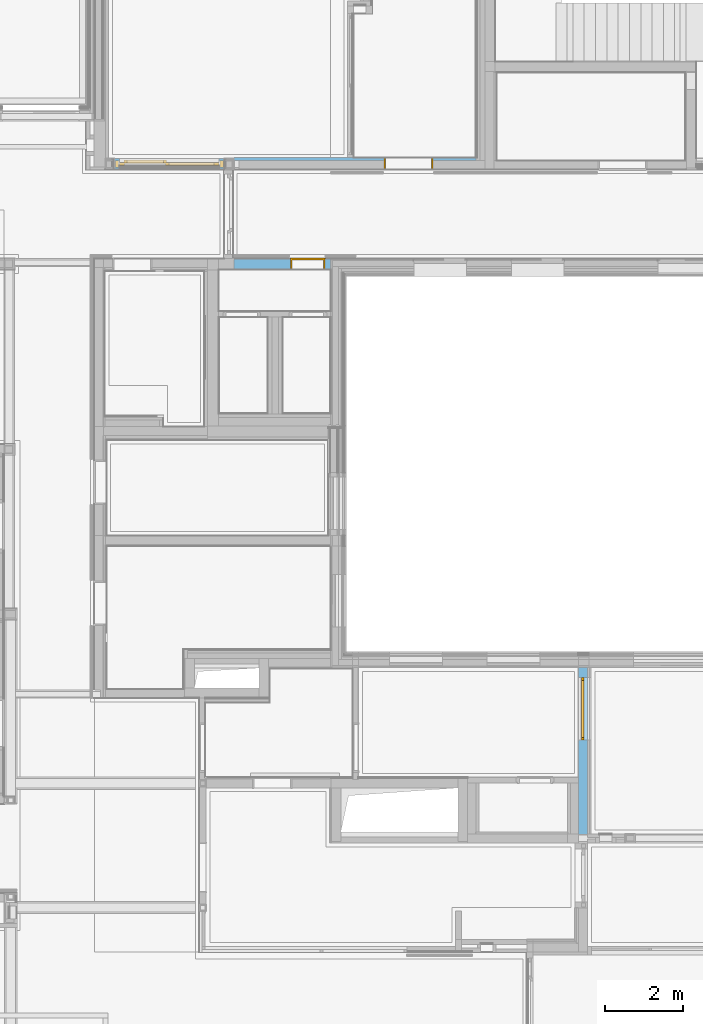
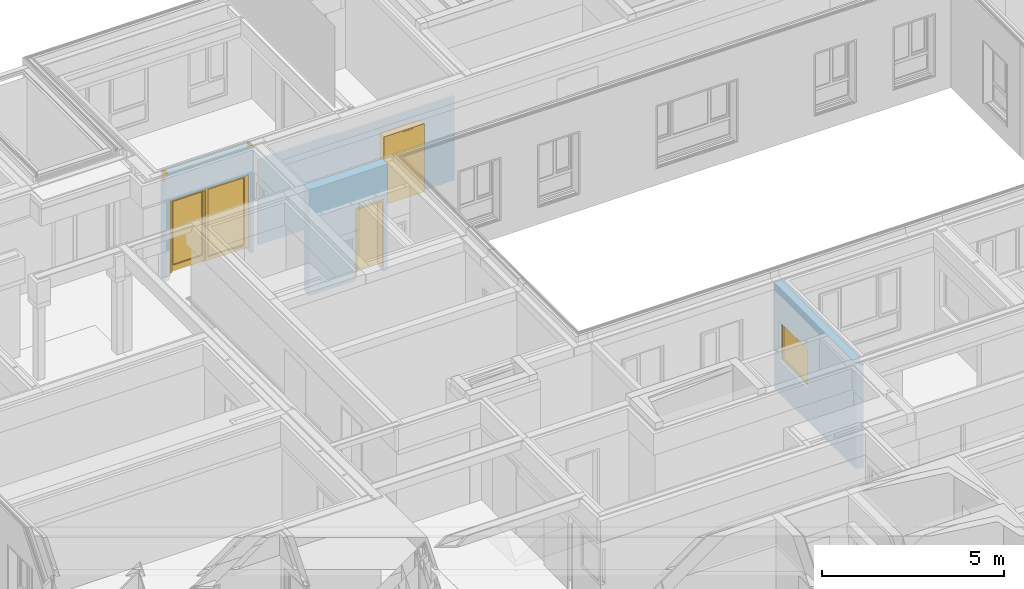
# One storey, part 93 of 222: 3 doors, 1 window, 4 openings, plus 4 elements that do not belong to this part.
"""IFC4 building model written with IfcOpenShell, lengths in metres."""

from ifc_helpers import new_model, entity, si_unit, converted_unit, derived_unit, frame, frame_2d, origin, origin_with_axes, place, context, subcontext, project, spatial, polyline, rectangle, outline, extrude, clip, bounded_halfspace, closed_shell, open_shell, faceted_brep, surface_model, source, transform, mapped, material, type_object, element, fill, save


model = new_model("IFC4")

# Units and contexts
model_context = context("Model", 3, precision=1e-05, world=origin())
body_context = subcontext(model_context, "Body", "Model", "MODEL_VIEW")
ifc_project = project(units=[si_unit("LENGTHUNIT", "METRE"), si_unit("AREAUNIT", "SQUARE_METRE"), si_unit("VOLUMEUNIT", "CUBIC_METRE"), si_unit("MASSUNIT", "GRAM", prefix="KILO"), converted_unit("PLANEANGLEUNIT", "DEGREE", entity("IfcPlaneAngleMeasure", 0.0174532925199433), si_unit("PLANEANGLEUNIT", "RADIAN"), dimensions=[0, 0, 0, 0, 0, 0, 0]), derived_unit("THERMALTRANSMITTANCEUNIT", [(si_unit("POWERUNIT", "WATT"), 1), (si_unit("THERMODYNAMICTEMPERATUREUNIT", "KELVIN"), -1), (si_unit("LENGTHUNIT", "METRE"), -2)]), derived_unit("VOLUMETRICFLOWRATEUNIT", [(si_unit("LENGTHUNIT", "METRE"), 3), (converted_unit("TIMEUNIT", "hour", entity("IfcTimeMeasure", 3600.0), si_unit("TIMEUNIT", "SECOND"), dimensions=[0, 0, 1, 0, 0, 0, 0]), -1), (si_unit("LENGTHUNIT", "METRE"), -1)])], contexts=[model_context])

# Site, building, storey
site_placement = place(None, origin())
site = spatial("IfcSite", under=ifc_project, at=site_placement, Name="Psychiatrie Neubau Wunstorf", CompositionType="ELEMENT")
building_placement = place(site_placement, origin())
building = spatial("IfcBuilding", under=site, at=building_placement, Name="Neubau H2 Stationsgebäude", CompositionType="ELEMENT")
storey_placement = place(building_placement, frame((0.0, 0.0, 3.6)))
storey = spatial("IfcBuildingStorey", under=building, at=storey_placement, Name="H2 Ebene +1", CompositionType="ELEMENT", Elevation=3.6)

# Wall, opening, door
ifc_material_1 = material(Name="WI-HW 60")
wall_1_placement = place(storey_placement, frame((43.9390000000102, 20.5859980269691, 0.0), z_axis=(0.0, 0.0, 1.0), x_axis=(-1.0, 0.0, 0.0)))
wall_1 = element("IfcWall", 1, at=wall_1_placement, inside=storey, material=ifc_material_1, context=body_context, shape_type="SweptSolid", body=[
    extrude(rectangle(XDim=2.48100000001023, YDim=0.29, at=frame_2d((1.24050000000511, 0.145), x_axis=(1.0, 0.0))), origin_with_axes(), (0.0, 0.0, 1.0), 3.55),
])
opening_1_placement = place(wall_1_placement, frame((0.139000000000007, 0.0, 0.0), z_axis=(0.0, 1.0, 0.0), x_axis=(0.0, 0.0, 1.0)))
opening_1 = element("IfcOpeningElement", 2, at=opening_1_placement, cuts=wall_1, Name="Türöffnung", ObjectType="Opening", context=body_context, shape_type="SweptSolid", body=[
    extrude(outline(polyline([(2.41, 0.885), (2.41, 0.0), (0.0, 0.0), (0.0, 0.885), (2.41, 0.885)])), origin_with_axes(), (0.0, 0.0, 1.0), 0.29),
])
ifc_material_2 = material(Name="TI-1F-UZ-D")
door_type_1 = type_object("IfcDoorType", Name="SMT", OperationType="SINGLE_SWING_RIGHT", ParameterTakesPrecedence=False, PredefinedType="DOOR")
shared_shape_1 = source(origin_with_axes(), body_context, "Body", "Brep", [
    faceted_brep([(0.885, -0.015, 2.41), (0.885, -0.015, 0.15), (0.845, -0.015, 0.15), (0.845, -0.015, 2.41), (0.885, 0.305, 0.15), (0.885, 0.305, 2.41), (0.845, 0.305, 2.41), (0.845, 0.305, 0.15)], [[[0, 1, 2, 3]], [[4, 5, 6, 7]], [[1, 0, 5, 4]], [[2, 1, 4, 7]], [[3, 2, 7, 6]], [[0, 3, 6, 5]]], orient=[[False], [False], [False], [False], [False], [False]]),
    faceted_brep([(0.885, -0.015, 2.425), (0.9, -0.015, 2.425), (0.9, -0.015, 0.15), (0.885, -0.015, 0.15), (0.885, 0.0, 0.15), (0.9, 0.0, 0.15), (0.9, 0.0, 2.425), (0.885, 0.0, 2.425)], [[[0, 1, 2, 3]], [[4, 5, 6, 7]], [[3, 4, 7, 0]], [[2, 5, 4, 3]], [[1, 6, 5, 2]], [[0, 7, 6, 1]]], orient=[[False], [False], [False], [False], [False], [False]]),
    faceted_brep([(0.885, 0.29, 2.425), (0.9, 0.29, 2.425), (0.9, 0.29, 0.15), (0.885, 0.29, 0.15), (0.885, 0.305, 0.15), (0.9, 0.305, 0.15), (0.9, 0.305, 2.425), (0.885, 0.305, 2.425)], [[[0, 1, 2, 3]], [[4, 5, 6, 7]], [[3, 4, 7, 0]], [[2, 5, 4, 3]], [[1, 6, 5, 2]], [[0, 7, 6, 1]]], orient=[[False], [False], [False], [False], [False], [False]]),
    faceted_brep([(0.04, -0.015, 2.41), (0.04, -0.015, 0.15), (0.0, -0.015, 0.15), (0.0, -0.015, 2.41), (0.04, 0.305, 0.15), (0.04, 0.305, 2.41), (0.0, 0.305, 2.41), (0.0, 0.305, 0.15)], [[[0, 1, 2, 3]], [[4, 5, 6, 7]], [[1, 0, 5, 4]], [[2, 1, 4, 7]], [[3, 2, 7, 6]], [[0, 3, 6, 5]]], orient=[[False], [False], [False], [False], [False], [False]]),
    faceted_brep([(0.0, -0.015, 2.425), (0.0, -0.015, 0.15), (-0.015, -0.015, 0.15), (-0.015, -0.015, 2.425), (0.0, 0.0, 0.15), (0.0, 0.0, 2.425), (-0.015, 0.0, 2.425), (-0.015, 0.0, 0.15)], [[[0, 1, 2, 3]], [[4, 5, 6, 7]], [[1, 0, 5, 4]], [[2, 1, 4, 7]], [[3, 2, 7, 6]], [[0, 3, 6, 5]]], orient=[[False], [False], [False], [False], [False], [False]]),
    faceted_brep([(0.0, 0.29, 2.425), (0.0, 0.29, 0.15), (-0.015, 0.29, 0.15), (-0.015, 0.29, 2.425), (0.0, 0.305, 0.15), (0.0, 0.305, 2.425), (-0.015, 0.305, 2.425), (-0.015, 0.305, 0.15)], [[[0, 1, 2, 3]], [[4, 5, 6, 7]], [[1, 0, 5, 4]], [[2, 1, 4, 7]], [[3, 2, 7, 6]], [[0, 3, 6, 5]]], orient=[[False], [False], [False], [False], [False], [False]]),
    faceted_brep([(0.845, -0.015, 2.41), (0.845, -0.015, 2.37), (0.04, -0.015, 2.37), (0.04, -0.015, 2.41), (0.845, 0.305, 2.37), (0.845, 0.305, 2.41), (0.04, 0.305, 2.41), (0.04, 0.305, 2.37)], [[[0, 1, 2, 3]], [[4, 5, 6, 7]], [[1, 0, 5, 4]], [[2, 1, 4, 7]], [[3, 2, 7, 6]], [[0, 3, 6, 5]]], orient=[[False], [False], [False], [False], [False], [False]]),
    faceted_brep([(0.885, -0.015, 2.425), (0.885, -0.015, 2.41), (0.0, -0.015, 2.41), (0.0, -0.015, 2.425), (0.885, 0.0, 2.41), (0.885, 0.0, 2.425), (0.0, 0.0, 2.425), (0.0, 0.0, 2.41)], [[[0, 1, 2, 3]], [[4, 5, 6, 7]], [[1, 0, 5, 4]], [[2, 1, 4, 7]], [[3, 2, 7, 6]], [[0, 3, 6, 5]]], orient=[[False], [False], [False], [False], [False], [False]]),
    faceted_brep([(0.885, 0.29, 2.425), (0.885, 0.29, 2.41), (0.0, 0.29, 2.41), (0.0, 0.29, 2.425), (0.885, 0.305, 2.41), (0.885, 0.305, 2.425), (0.0, 0.305, 2.425), (0.0, 0.305, 2.41)], [[[0, 1, 2, 3]], [[4, 5, 6, 7]], [[1, 0, 5, 4]], [[2, 1, 4, 7]], [[3, 2, 7, 6]], [[0, 3, 6, 5]]], orient=[[False], [False], [False], [False], [False], [False]]),
    faceted_brep([(0.86, 0.256, 2.385), (0.86, 0.256, 0.15), (0.025, 0.256, 0.15), (0.025, 0.256, 2.385), (0.86, 0.306, 0.15), (0.86, 0.306, 2.385), (0.025, 0.306, 2.385), (0.025, 0.306, 0.15)], [[[0, 1, 2, 3]], [[4, 5, 6, 7]], [[1, 0, 5, 4]], [[2, 1, 4, 7]], [[3, 2, 7, 6]], [[0, 3, 6, 5]]], orient=[[False], [False], [False], [False], [False], [False]]),
])
door_1_placement = place(opening_1_placement, frame((0.0, 0.885, 0.29), z_axis=(1.0, 0.0, 0.0), x_axis=(0.0, -1.0, 0.0)))
door_1 = element("IfcDoor", 3, at=door_1_placement, inside=storey, type_object=door_type_1, material=ifc_material_2, Name="SMT", OverallHeight=2.41, OverallWidth=0.885, context=body_context, shape_type="MappedRepresentation", body=[
    mapped(shared_shape_1, transform((0.0, 0.0, 0.0), x_axis=(1.0, 0.0, 0.0), y_axis=(0.0, 1.0, 0.0), z_axis=(0.0, 0.0, 1.0), scale=1.0)),
])
fill(opening_1, door_1)

# Wall, opening, window
ifc_material_3 = material(Name="WI-HW 60")
wall_2_placement = place(storey_placement, frame((50.5180000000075, 5.61750021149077, 0.0), z_axis=(0.0, 0.0, 1.0), x_axis=(0.0, 1.0, 0.0)))
wall_2 = element("IfcWall", 4, at=wall_2_placement, inside=storey, material=ifc_material_3, context=body_context, shape_type="Clipping", body=[
    clip(extrude(rectangle(XDim=4.49649947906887, YDim=0.232, at=frame_2d((2.24824973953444, 0.116), x_axis=(1.0, 0.0))), origin_with_axes(), (0.0, 0.0, 1.0), 3.55), bounded_halfspace(frame((0.115999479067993, 0.116, 3.25), z_axis=(0.0, 0.0, -1.0), x_axis=(-1.0, 0.0, 0.0)), True, origin_with_axes(), polyline([(0.195999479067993, 0.232), (0.035999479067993, 0.232), (0.035999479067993, 0.0), (0.195999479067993, 0.0), (0.195999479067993, 0.232)]))),
])
opening_2_placement = place(wall_2_placement, frame((2.63399947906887, 0.0, 1.1), z_axis=(0.0, 1.0, 0.0), x_axis=(0.0, 0.0, 1.0)))
opening_2 = element("IfcOpeningElement", 5, at=opening_2_placement, cuts=wall_2, Name="Fensteröffnung", ObjectType="Opening", context=body_context, shape_type="SweptSolid", body=[
    extrude(outline(polyline([(1.31, 1.6), (1.31, 0.0), (0.0, 0.0), (0.0, 1.6), (1.31, 1.6)])), origin_with_axes(), (0.0, 0.0, 1.0), 0.232),
])
shared_shape_2 = source(origin_with_axes(), body_context, "Body", "SurfaceModel", [
    surface_model("IfcShellBasedSurfaceModel", [(0.0, 0.0, 1.31), (0.0699999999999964, 0.0, 1.31), (0.0699999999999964, 0.0, 0.0), (0.0, 0.0, 0.0), (0.0, 0.0700000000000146, 0.0), (0.0699999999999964, 0.0700000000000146, 0.0), (0.0699999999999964, 0.0700000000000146, 1.31), (0.0, 0.0700000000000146, 1.31)], [closed_shell([[[0, 1, 2, 3]], [[4, 5, 6, 7]], [[3, 4, 7, 0]], [[2, 5, 4, 3]], [[1, 6, 5, 2]], [[0, 7, 6, 1]]], orient=[[False], [False], [False], [False], [False], [False]])]),
    surface_model("IfcShellBasedSurfaceModel", [(1.53, 0.0, 1.31), (1.6, 0.0, 1.31), (1.6, 0.0, 0.0), (1.53, 0.0, 0.0), (1.53, 0.0700000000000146, 0.0), (1.6, 0.0700000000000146, 0.0), (1.6, 0.0700000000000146, 1.31), (1.53, 0.0700000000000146, 1.31)], [closed_shell([[[0, 1, 2, 3]], [[4, 5, 6, 7]], [[3, 4, 7, 0]], [[2, 5, 4, 3]], [[1, 6, 5, 2]], [[0, 7, 6, 1]]], orient=[[False], [False], [False], [False], [False], [False]])]),
    surface_model("IfcShellBasedSurfaceModel", [(0.0699999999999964, 0.0, 0.07), (1.53, 0.0, 0.07), (1.53, 0.0, 0.0), (0.0699999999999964, 0.0, 0.0), (0.0699999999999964, 0.0700000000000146, 0.0), (1.53, 0.0700000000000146, 0.0), (1.53, 0.0700000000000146, 0.07), (0.0699999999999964, 0.0700000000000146, 0.07)], [closed_shell([[[0, 1, 2, 3]], [[4, 5, 6, 7]], [[3, 4, 7, 0]], [[2, 5, 4, 3]], [[1, 6, 5, 2]], [[0, 7, 6, 1]]], orient=[[False], [False], [False], [False], [False], [False]])]),
    surface_model("IfcShellBasedSurfaceModel", [(0.0699999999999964, 0.0, 1.31), (1.53, 0.0, 1.31), (1.53, 0.0, 1.24), (0.0699999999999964, 0.0, 1.24), (0.0699999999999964, 0.0700000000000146, 1.24), (1.53, 0.0700000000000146, 1.24), (1.53, 0.0700000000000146, 1.31), (0.0699999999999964, 0.0700000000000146, 1.31)], [closed_shell([[[0, 1, 2, 3]], [[4, 5, 6, 7]], [[3, 4, 7, 0]], [[2, 5, 4, 3]], [[1, 6, 5, 2]], [[0, 7, 6, 1]]], orient=[[False], [False], [False], [False], [False], [False]])]),
    surface_model("IfcShellBasedSurfaceModel", [(0.0699999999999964, 0.0350000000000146, 0.07), (0.0699999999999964, 0.0350000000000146, 1.24), (1.53, 0.0350000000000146, 1.24), (1.53, 0.0350000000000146, 0.07)], [open_shell([[[0, 1, 2, 3]]], orient=[[False]])]),
])
window_placement = place(opening_2_placement, frame((0.0, 0.0, 0.082), z_axis=(1.0, 0.0, 0.0), x_axis=(0.0, 1.0, 0.0)))
window = element("IfcWindow", 6, at=window_placement, inside=storey, Name="Fenster", OverallHeight=1.31, OverallWidth=1.6, PartitioningType="USERDEFINED", PredefinedType="WINDOW", context=body_context, shape_type="MappedRepresentation", body=[
    mapped(shared_shape_2, transform((0.0, 0.0, 0.0), x_axis=(1.0, 0.0, 0.0), y_axis=(0.0, 1.0, 0.0), z_axis=(0.0, 0.0, 1.0), scale=1.0)),
])
fill(opening_2, window)

# Wall, opening, door
ifc_material_4 = material(Name="WI-LW 60")
wall_3_placement = place(storey_placement, frame((41.198, 23.1540026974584, 0.0), z_axis=(0.0, 0.0, 1.0), x_axis=(-0.999999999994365, -3.35709518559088e-06, 0.0)))
wall_3 = element("IfcWall", 7, at=wall_3_placement, inside=storey, material=ifc_material_4, context=body_context, shape_type="Clipping", body=[
    clip(extrude(outline(polyline([(-2.79500097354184, -0.289990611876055), (-9.73526087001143e-07, -0.289990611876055), (0.0, 0.0), (-2.79499999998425, 9.38308104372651e-06), (-2.79500097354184, -0.289990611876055)])), frame((2.79500097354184, 0.289990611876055, 0.0), z_axis=(0.0, 0.0, 1.0), x_axis=(1.0, 0.0, 0.0)), (0.0, 0.0, 1.0), 3.55), bounded_halfspace(frame((1.39750048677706, 0.144997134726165, 3.25), z_axis=(0.0, 0.0, -1.0), x_axis=(3.35709518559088e-06, 0.999999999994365, 0.0)), True, origin_with_axes(), polyline([(2.79500018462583, 0.0549910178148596), (2.79500078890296, 0.23499101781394), (7.889282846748e-07, 0.23500325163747), (1.84651151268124e-07, 0.0550032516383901), (2.79500018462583, 0.0549910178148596)]))),
])
opening_3_placement = place(wall_3_placement, frame((2.66775097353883, 0.289991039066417, 0.0), z_axis=(-3.35709518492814e-06, -0.999999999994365, 0.0), x_axis=(0.0, 0.0, 1.0)))
opening_3 = element("IfcOpeningElement", 8, at=opening_3_placement, cuts=wall_3, Name="Türöffnung", ObjectType="Opening", context=body_context, shape_type="SweptSolid", body=[
    extrude(outline(polyline([(2.65, 2.55), (2.65, 0.0), (0.0, 0.0), (0.0, 2.55), (2.65, 2.55)])), origin_with_axes(), (0.0, 0.0, 1.0), 0.29),
])
ifc_material_5 = material(Name="TI-1F-AG-D-1S-O")
shared_shape_3 = source(origin_with_axes(), body_context, "Body", "Brep", [
    faceted_brep([(2.6575, -0.0500000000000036, 0.0), (2.6575, 0.130000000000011, 0.0), (2.5775, 0.130000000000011, 0.0), (2.5775, -0.0500000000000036, 0.0), (2.6575, 0.130000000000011, 3.55), (2.6575, -0.0500000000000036, 3.55), (2.5775, -0.0500000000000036, 3.55), (2.5775, 0.130000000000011, 3.55)], [[[0, 1, 2, 3]], [[4, 5, 6, 7]], [[1, 0, 5, 4]], [[2, 1, 4, 7]], [[3, 2, 7, 6]], [[0, 3, 6, 5]]], orient=[[False], [False], [False], [False], [False], [False]]),
    faceted_brep([(-0.0275, -0.0500000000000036, 0.0), (-0.0275, 0.130000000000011, 0.0), (-0.1075, 0.130000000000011, 0.0), (-0.1075, -0.0500000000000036, 0.0), (-0.0275, 0.130000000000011, 3.55), (-0.0275, -0.0500000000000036, 3.55), (-0.1075, -0.0500000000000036, 3.55), (-0.1075, 0.130000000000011, 3.55)], [[[0, 1, 2, 3]], [[4, 5, 6, 7]], [[1, 0, 5, 4]], [[2, 1, 4, 7]], [[3, 2, 7, 6]], [[0, 3, 6, 5]]], orient=[[False], [False], [False], [False], [False], [False]]),
    faceted_brep([(2.5775, -0.0500000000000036, 2.6775), (2.5775, 0.130000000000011, 2.6775), (-0.0275, 0.130000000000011, 2.6775), (-0.0275, -0.0500000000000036, 2.6775), (2.5775, 0.130000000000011, 2.7575), (2.5775, -0.0500000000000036, 2.7575), (-0.0275, -0.0500000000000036, 2.7575), (-0.0275, 0.130000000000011, 2.7575)], [[[0, 1, 2, 3]], [[4, 5, 6, 7]], [[1, 0, 5, 4]], [[2, 1, 4, 7]], [[3, 2, 7, 6]], [[0, 3, 6, 5]]], orient=[[False], [False], [False], [False], [False], [False]]),
])
shared_shape_4 = source(origin_with_axes(), body_context, "Body", "SurfaceModel", [
    surface_model("IfcShellBasedSurfaceModel", [(0.0, 0.000500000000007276, 2.65), (0.05, 0.000500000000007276, 2.65), (0.05, 0.000500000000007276, 0.15), (0.0, 0.000500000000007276, 0.15), (0.0, 0.0795000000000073, 0.15), (0.05, 0.0795000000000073, 0.15), (0.05, 0.0795000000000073, 2.65), (0.0, 0.0795000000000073, 2.65)], [closed_shell([[[0, 1, 2, 3]], [[4, 5, 6, 7]], [[3, 4, 7, 0]], [[2, 5, 4, 3]], [[1, 6, 5, 2]], [[0, 7, 6, 1]]], orient=[[False], [False], [False], [False], [False], [False]])]),
    surface_model("IfcShellBasedSurfaceModel", [(2.5, 0.000500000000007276, 2.65), (2.55, 0.000500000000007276, 2.65), (2.55, 0.000500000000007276, 0.15), (2.5, 0.000500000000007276, 0.15), (2.5, 0.0795000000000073, 0.15), (2.55, 0.0795000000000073, 0.15), (2.55, 0.0795000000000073, 2.65), (2.5, 0.0795000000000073, 2.65)], [closed_shell([[[0, 1, 2, 3]], [[4, 5, 6, 7]], [[3, 4, 7, 0]], [[2, 5, 4, 3]], [[1, 6, 5, 2]], [[0, 7, 6, 1]]], orient=[[False], [False], [False], [False], [False], [False]])]),
    surface_model("IfcShellBasedSurfaceModel", [(0.05, 0.000500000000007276, 2.65), (2.5, 0.000500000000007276, 2.65), (2.5, 0.000500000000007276, 2.6), (0.05, 0.000500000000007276, 2.6), (0.05, 0.0795000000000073, 2.6), (2.5, 0.0795000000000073, 2.6), (2.5, 0.0795000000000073, 2.65), (0.05, 0.0795000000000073, 2.65)], [closed_shell([[[0, 1, 2, 3]], [[4, 5, 6, 7]], [[3, 4, 7, 0]], [[2, 5, 4, 3]], [[1, 6, 5, 2]], [[0, 7, 6, 1]]], orient=[[False], [False], [False], [False], [False], [False]])]),
    surface_model("IfcShellBasedSurfaceModel", [(0.05, 0.0, 2.6), (0.13, 0.0, 2.6), (0.13, 0.0, 0.15), (0.05, 0.0, 0.15), (0.05, 0.0800000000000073, 0.15), (0.13, 0.0800000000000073, 0.15), (0.13, 0.0800000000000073, 2.6), (0.05, 0.0800000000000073, 2.6)], [closed_shell([[[0, 1, 2, 3]], [[4, 5, 6, 7]], [[3, 4, 7, 0]], [[2, 5, 4, 3]], [[1, 6, 5, 2]], [[0, 7, 6, 1]]], orient=[[False], [False], [False], [False], [False], [False]])]),
    surface_model("IfcShellBasedSurfaceModel", [(2.42, 0.0, 2.6), (2.5, 0.0, 2.6), (2.5, 0.0, 0.15), (2.42, 0.0, 0.15), (2.42, 0.0800000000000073, 0.15), (2.5, 0.0800000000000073, 0.15), (2.5, 0.0800000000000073, 2.6), (2.42, 0.0800000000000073, 2.6)], [closed_shell([[[0, 1, 2, 3]], [[4, 5, 6, 7]], [[3, 4, 7, 0]], [[2, 5, 4, 3]], [[1, 6, 5, 2]], [[0, 7, 6, 1]]], orient=[[False], [False], [False], [False], [False], [False]])]),
    surface_model("IfcShellBasedSurfaceModel", [(0.13, 0.0, 2.6), (2.42, 0.0, 2.6), (2.42, 0.0, 2.52), (0.13, 0.0, 2.52), (0.13, 0.0800000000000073, 2.52), (2.42, 0.0800000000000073, 2.52), (2.42, 0.0800000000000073, 2.6), (0.13, 0.0800000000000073, 2.6)], [closed_shell([[[0, 1, 2, 3]], [[4, 5, 6, 7]], [[3, 4, 7, 0]], [[2, 5, 4, 3]], [[1, 6, 5, 2]], [[0, 7, 6, 1]]], orient=[[False], [False], [False], [False], [False], [False]])]),
    surface_model("IfcShellBasedSurfaceModel", [(0.11, 0.0600000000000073, 2.54), (0.19, 0.0600000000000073, 2.54), (0.19, 0.0600000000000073, 0.13), (0.11, 0.0600000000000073, 0.13), (0.11, 0.140000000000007, 0.13), (0.19, 0.140000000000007, 0.13), (0.19, 0.140000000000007, 2.54), (0.11, 0.140000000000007, 2.54)], [closed_shell([[[0, 1, 2, 3]], [[4, 5, 6, 7]], [[3, 4, 7, 0]], [[2, 5, 4, 3]], [[1, 6, 5, 2]], [[0, 7, 6, 1]]], orient=[[False], [False], [False], [False], [False], [False]])]),
    surface_model("IfcShellBasedSurfaceModel", [(1.12, 0.0600000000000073, 2.54), (1.2, 0.0600000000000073, 2.54), (1.2, 0.0600000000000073, 0.13), (1.12, 0.0600000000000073, 0.13), (1.12, 0.140000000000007, 0.13), (1.2, 0.140000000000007, 0.13), (1.2, 0.140000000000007, 2.54), (1.12, 0.140000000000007, 2.54)], [closed_shell([[[0, 1, 2, 3]], [[4, 5, 6, 7]], [[3, 4, 7, 0]], [[2, 5, 4, 3]], [[1, 6, 5, 2]], [[0, 7, 6, 1]]], orient=[[False], [False], [False], [False], [False], [False]])]),
    surface_model("IfcShellBasedSurfaceModel", [(0.19, 0.0600000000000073, 0.33), (1.12, 0.0600000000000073, 0.33), (1.12, 0.0600000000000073, 0.13), (0.19, 0.0600000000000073, 0.13), (0.19, 0.140000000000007, 0.13), (1.12, 0.140000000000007, 0.13), (1.12, 0.140000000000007, 0.33), (0.19, 0.140000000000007, 0.33)], [closed_shell([[[0, 1, 2, 3]], [[4, 5, 6, 7]], [[3, 4, 7, 0]], [[2, 5, 4, 3]], [[1, 6, 5, 2]], [[0, 7, 6, 1]]], orient=[[False], [False], [False], [False], [False], [False]])]),
    surface_model("IfcShellBasedSurfaceModel", [(0.19, 0.0600000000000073, 2.54), (1.12, 0.0600000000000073, 2.54), (1.12, 0.0600000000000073, 2.46), (0.19, 0.0600000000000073, 2.46), (0.19, 0.140000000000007, 2.46), (1.12, 0.140000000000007, 2.46), (1.12, 0.140000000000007, 2.54), (0.19, 0.140000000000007, 2.54)], [closed_shell([[[0, 1, 2, 3]], [[4, 5, 6, 7]], [[3, 4, 7, 0]], [[2, 5, 4, 3]], [[1, 6, 5, 2]], [[0, 7, 6, 1]]], orient=[[False], [False], [False], [False], [False], [False]])]),
    surface_model("IfcShellBasedSurfaceModel", [(1.181, 0.0, 2.52), (1.261, 0.0, 2.52), (1.261, 0.0, 0.15), (1.181, 0.0, 0.15), (1.181, 0.0800000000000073, 0.15), (1.261, 0.0800000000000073, 0.15), (1.261, 0.0800000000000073, 2.52), (1.181, 0.0800000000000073, 2.52)], [closed_shell([[[0, 1, 2, 3]], [[4, 5, 6, 7]], [[3, 4, 7, 0]], [[2, 5, 4, 3]], [[1, 6, 5, 2]], [[0, 7, 6, 1]]], orient=[[False], [False], [False], [False], [False], [False]])]),
    surface_model("IfcShellBasedSurfaceModel", [(1.261, 0.0, 0.27), (2.42, 0.0, 0.27), (2.42, 0.0, 0.15), (1.261, 0.0, 0.15), (1.261, 0.0800000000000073, 0.15), (2.42, 0.0800000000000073, 0.15), (2.42, 0.0800000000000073, 0.27), (1.261, 0.0800000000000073, 0.27)], [closed_shell([[[0, 1, 2, 3]], [[4, 5, 6, 7]], [[3, 4, 7, 0]], [[2, 5, 4, 3]], [[1, 6, 5, 2]], [[0, 7, 6, 1]]], orient=[[False], [False], [False], [False], [False], [False]])]),
    surface_model("IfcShellBasedSurfaceModel", [(1.261, 0.0400000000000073, 0.27), (1.261, 0.0400000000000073, 2.52), (2.42, 0.0400000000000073, 2.52), (2.42, 0.0400000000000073, 0.27)], [open_shell([[[0, 1, 2, 3]]], orient=[[False]])]),
    surface_model("IfcShellBasedSurfaceModel", [(0.19, 0.100000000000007, 0.33), (0.19, 0.100000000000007, 2.46), (1.12, 0.100000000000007, 2.46), (1.12, 0.100000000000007, 0.33)], [open_shell([[[0, 1, 2, 3]]], orient=[[False]])]),
])
door_2_placement = place(opening_3_placement, frame((0.0, 0.0, 0.105), z_axis=(1.0, 0.0, 0.0), x_axis=(0.0, 1.0, -6.6274144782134e-16)))
door_2 = element("IfcDoor", 9, at=door_2_placement, inside=storey, material=ifc_material_5, Name="SMT", OperationType="USERDEFINED", OverallHeight=2.65, OverallWidth=2.55, PredefinedType="DOOR", context=body_context, shape_type="MappedRepresentation", body=[
    mapped(shared_shape_3, transform((0.0, 0.0, 0.0), x_axis=(1.0, 0.0, 0.0), y_axis=(0.0, 1.0, 0.0), z_axis=(0.0, 0.0, 1.0), scale=1.0)),
    mapped(shared_shape_4, transform((0.0, 0.0, 0.0), x_axis=(1.0, 0.0, 0.0), y_axis=(0.0, 1.0, 0.0), z_axis=(0.0, 0.0, 1.0), scale=1.0)),
])
fill(opening_3, door_2)

ifc_material_6 = material(Name="WI-LB")
wall_4_placement = place(storey_placement, frame((47.664, 23.1709999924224, 0.0), z_axis=(0.0, 0.0, 1.0), x_axis=(-1.0, 0.0, 0.0)))
wall_4 = element("IfcWall", 10, at=wall_4_placement, inside=storey, material=ifc_material_6, context=body_context, shape_type="Clipping", body=[
    clip(extrude(rectangle(XDim=6.19599999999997, YDim=0.075, at=frame_2d((3.09799999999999, 0.0375), x_axis=(1.0, 0.0))), origin_with_axes(), (0.0, 0.0, 1.0), 2.85), bounded_halfspace(frame((1.86324999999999, 0.0375, 2.81), z_axis=(0.0, 0.0, -1.0), x_axis=(1.0, 0.0, 0.0)), True, origin_with_axes(), polyline([(0.0, 0.0), (3.72649999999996, 0.0), (3.72649999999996, 0.075), (0.0, 0.075), (0.0, 0.0)]))),
])
opening_4_placement = place(wall_4_placement, frame((2.35899999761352, 0.075, 0.0), z_axis=(0.0, -1.0, 0.0), x_axis=(0.0, 0.0, 1.0)))
opening_4 = element("IfcOpeningElement", 11, at=opening_4_placement, cuts=wall_4, Name="Türöffnung", ObjectType="Opening", context=body_context, shape_type="SweptSolid", body=[
    extrude(outline(polyline([(2.41, 1.26), (2.41, 0.0), (0.0, 0.0), (0.0, 1.26), (2.41, 1.26)])), origin_with_axes(), (0.0, 0.0, 1.0), 0.075),
])
ifc_material_7 = material(Name="TI-1F-UZ-M-ZK-SF")
door_type_2 = type_object("IfcDoorType", Name="SMT", OperationType="SINGLE_SWING_RIGHT", ParameterTakesPrecedence=False, PredefinedType="DOOR")
shared_shape_5 = source(origin_with_axes(), body_context, "Body", "Brep", [
    faceted_brep([(1.26, -0.015, 2.41), (1.26, -0.015, 0.15), (1.22, -0.015, 0.15), (1.22, -0.015, 2.41), (1.26, 0.322, 0.15), (1.26, 0.322, 2.41), (1.22, 0.322, 2.41), (1.22, 0.322, 0.15)], [[[0, 1, 2, 3]], [[4, 5, 6, 7]], [[1, 0, 5, 4]], [[2, 1, 4, 7]], [[3, 2, 7, 6]], [[0, 3, 6, 5]]], orient=[[False], [False], [False], [False], [False], [False]]),
    faceted_brep([(1.26, -0.015, 2.425), (1.275, -0.015, 2.425), (1.275, -0.015, 0.15), (1.26, -0.015, 0.15), (1.26, 0.0, 0.15), (1.275, 0.0, 0.15), (1.275, 0.0, 2.425), (1.26, 0.0, 2.425)], [[[0, 1, 2, 3]], [[4, 5, 6, 7]], [[3, 4, 7, 0]], [[2, 5, 4, 3]], [[1, 6, 5, 2]], [[0, 7, 6, 1]]], orient=[[False], [False], [False], [False], [False], [False]]),
    faceted_brep([(1.26, 0.307, 2.425), (1.275, 0.307, 2.425), (1.275, 0.307, 0.15), (1.26, 0.307, 0.15), (1.26, 0.322, 0.15), (1.275, 0.322, 0.15), (1.275, 0.322, 2.425), (1.26, 0.322, 2.425)], [[[0, 1, 2, 3]], [[4, 5, 6, 7]], [[3, 4, 7, 0]], [[2, 5, 4, 3]], [[1, 6, 5, 2]], [[0, 7, 6, 1]]], orient=[[False], [False], [False], [False], [False], [False]]),
    faceted_brep([(0.04, -0.015, 2.41), (0.04, -0.015, 0.15), (0.0, -0.015, 0.15), (0.0, -0.015, 2.41), (0.04, 0.322, 0.15), (0.04, 0.322, 2.41), (0.0, 0.322, 2.41), (0.0, 0.322, 0.15)], [[[0, 1, 2, 3]], [[4, 5, 6, 7]], [[1, 0, 5, 4]], [[2, 1, 4, 7]], [[3, 2, 7, 6]], [[0, 3, 6, 5]]], orient=[[False], [False], [False], [False], [False], [False]]),
    faceted_brep([(0.0, -0.015, 2.425), (0.0, -0.015, 0.15), (-0.015, -0.015, 0.15), (-0.015, -0.015, 2.425), (0.0, 0.0, 0.15), (0.0, 0.0, 2.425), (-0.015, 0.0, 2.425), (-0.015, 0.0, 0.15)], [[[0, 1, 2, 3]], [[4, 5, 6, 7]], [[1, 0, 5, 4]], [[2, 1, 4, 7]], [[3, 2, 7, 6]], [[0, 3, 6, 5]]], orient=[[False], [False], [False], [False], [False], [False]]),
    faceted_brep([(0.0, 0.307, 2.425), (0.0, 0.307, 0.15), (-0.015, 0.307, 0.15), (-0.015, 0.307, 2.425), (0.0, 0.322, 0.15), (0.0, 0.322, 2.425), (-0.015, 0.322, 2.425), (-0.015, 0.322, 0.15)], [[[0, 1, 2, 3]], [[4, 5, 6, 7]], [[1, 0, 5, 4]], [[2, 1, 4, 7]], [[3, 2, 7, 6]], [[0, 3, 6, 5]]], orient=[[False], [False], [False], [False], [False], [False]]),
    faceted_brep([(1.22, -0.015, 2.41), (1.22, -0.015, 2.37), (0.04, -0.015, 2.37), (0.04, -0.015, 2.41), (1.22, 0.322, 2.37), (1.22, 0.322, 2.41), (0.04, 0.322, 2.41), (0.04, 0.322, 2.37)], [[[0, 1, 2, 3]], [[4, 5, 6, 7]], [[1, 0, 5, 4]], [[2, 1, 4, 7]], [[3, 2, 7, 6]], [[0, 3, 6, 5]]], orient=[[False], [False], [False], [False], [False], [False]]),
    faceted_brep([(1.26, -0.015, 2.425), (1.26, -0.015, 2.41), (0.0, -0.015, 2.41), (0.0, -0.015, 2.425), (1.26, 0.0, 2.41), (1.26, 0.0, 2.425), (0.0, 0.0, 2.425), (0.0, 0.0, 2.41)], [[[0, 1, 2, 3]], [[4, 5, 6, 7]], [[1, 0, 5, 4]], [[2, 1, 4, 7]], [[3, 2, 7, 6]], [[0, 3, 6, 5]]], orient=[[False], [False], [False], [False], [False], [False]]),
    faceted_brep([(1.26, 0.307, 2.425), (1.26, 0.307, 2.41), (0.0, 0.307, 2.41), (0.0, 0.307, 2.425), (1.26, 0.322, 2.41), (1.26, 0.322, 2.425), (0.0, 0.322, 2.425), (0.0, 0.322, 2.41)], [[[0, 1, 2, 3]], [[4, 5, 6, 7]], [[1, 0, 5, 4]], [[2, 1, 4, 7]], [[3, 2, 7, 6]], [[0, 3, 6, 5]]], orient=[[False], [False], [False], [False], [False], [False]]),
    faceted_brep([(1.235, 0.273, 2.385), (1.235, 0.273, 0.15), (0.025, 0.273, 0.15), (0.025, 0.273, 2.385), (1.235, 0.323, 0.15), (1.235, 0.323, 2.385), (0.025, 0.323, 2.385), (0.025, 0.323, 0.15)], [[[0, 1, 2, 3]], [[4, 5, 6, 7]], [[1, 0, 5, 4]], [[2, 1, 4, 7]], [[3, 2, 7, 6]], [[0, 3, 6, 5]]], orient=[[False], [False], [False], [False], [False], [False]]),
])
door_3_placement = place(opening_4_placement, frame((0.0, 1.26, 0.075), z_axis=(1.0, 0.0, 0.0), x_axis=(0.0, -1.0, 0.0)))
door_3 = element("IfcDoor", 12, at=door_3_placement, inside=storey, type_object=door_type_2, material=ifc_material_7, Name="SMT", OverallHeight=2.41, OverallWidth=1.26, context=body_context, shape_type="MappedRepresentation", body=[
    mapped(shared_shape_5, transform((0.0, 0.0, 0.0), x_axis=(1.0, 0.0, 0.0), y_axis=(0.0, 1.0, 0.0), z_axis=(0.0, 0.0, 1.0), scale=1.0)),
])
fill(opening_4, door_3)

save(model, "model.ifc")
